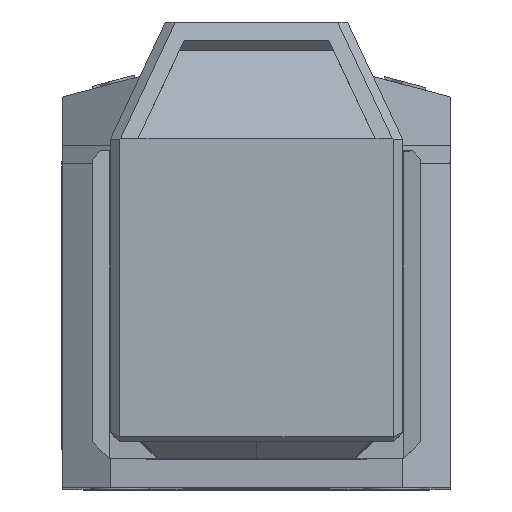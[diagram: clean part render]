
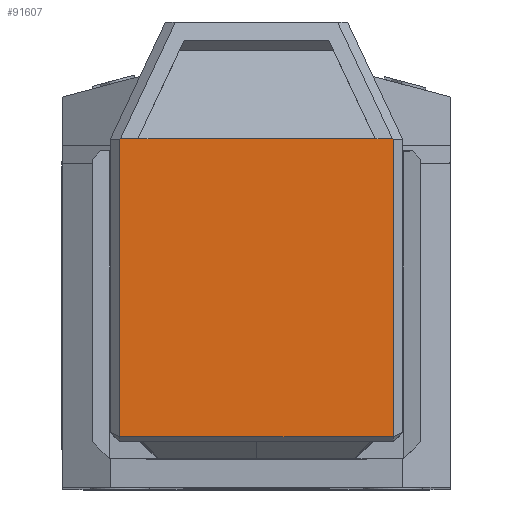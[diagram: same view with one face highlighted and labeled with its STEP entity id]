
A CAD part, top view. The second image highlights one B-rep face of the part: STEP entity #91607.
In plain terms, the highlighted planar face has unit normal (0, 0, 1).
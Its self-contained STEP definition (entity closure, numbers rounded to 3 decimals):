
#3517=DIRECTION('',(0.,-1.,0.));
#3518=VECTOR('',#3517,32.59);
#3519=CARTESIAN_POINT('',(15.,38.09,48.));
#3520=LINE('',#3519,#3518);
#15190=DIRECTION('',(0.,1.,0.));
#15191=VECTOR('',#15190,32.59);
#15192=CARTESIAN_POINT('',(-15.,5.5,
48.));
#15193=LINE('',#15192,#15191);
#15218=DIRECTION('',(-1.,0.,0.));
#15219=VECTOR('',#15218,30.);
#15220=CARTESIAN_POINT('',(15.,5.5,48.));
#15221=LINE('',#15220,#15219);
#17680=DIRECTION('',(1.,0.,0.));
#17681=VECTOR('',#17680,1.907);
#17682=CARTESIAN_POINT('',(-14.907,38.2,48.));
#17683=LINE('',#17682,#17681);
#17687=DIRECTION('',(1.,0.,0.));
#17688=VECTOR('',#17687,26.);
#17689=CARTESIAN_POINT('',(-13.,38.2,48.));
#17690=LINE('',#17689,#17688);
#17694=DIRECTION('',(1.,0.,0.));
#17695=VECTOR('',#17694,1.907);
#17696=CARTESIAN_POINT('',(13.,38.2,48.));
#17697=LINE('',#17696,#17695);
#17708=DIRECTION('',(-0.644,-0.765,0.));
#17709=VECTOR('',#17708,0.144);
#17710=CARTESIAN_POINT('',(-14.907,38.2,48.));
#17711=LINE('',#17710,#17709);
#17834=DIRECTION('',(-0.644,0.765,0.));
#17835=VECTOR('',#17834,0.144);
#17836=CARTESIAN_POINT('',(15.,38.09,48.));
#17837=LINE('',#17836,#17835);
#70955=CARTESIAN_POINT('',(-13.,38.2,48.));
#70956=CARTESIAN_POINT('',(13.,38.2,48.));
#70957=VERTEX_POINT('',#70955);
#70958=VERTEX_POINT('',#70956);
#71044=CARTESIAN_POINT('',(14.907,38.2,48.));
#71046=VERTEX_POINT('',#71044);
#71048=CARTESIAN_POINT('',(-14.907,38.2,48.));
#71050=VERTEX_POINT('',#71048);
#71071=CARTESIAN_POINT('',(15.,38.09,48.));
#71073=VERTEX_POINT('',#71071);
#71075=CARTESIAN_POINT('',(-15.,38.09,48.));
#71077=VERTEX_POINT('',#71075);
#71121=CARTESIAN_POINT('',(-15.,5.5,
48.));
#71123=VERTEX_POINT('',#71121);
#71127=CARTESIAN_POINT('',(15.,5.5,48.));
#71129=VERTEX_POINT('',#71127);
#91587=CARTESIAN_POINT('',(0.,5.,48.));
#91588=DIRECTION('',(0.,0.,-1.));
#91589=DIRECTION('',(0.,1.,0.));
#91590=AXIS2_PLACEMENT_3D('',#91587,#91588,#91589);
#91591=PLANE('',#91590);
#91592=ORIENTED_EDGE('',*,*,#76381,.T.);
#91593=ORIENTED_EDGE('',*,*,#88242,.T.);
#91594=ORIENTED_EDGE('',*,*,#88201,.T.);
#91596=ORIENTED_EDGE('',*,*,#91595,.F.);
#91598=ORIENTED_EDGE('',*,*,#91597,.T.);
#91600=ORIENTED_EDGE('',*,*,#91599,.T.);
#91602=ORIENTED_EDGE('',*,*,#91601,.T.);
#91604=ORIENTED_EDGE('',*,*,#91603,.F.);
#91605=EDGE_LOOP('',(#91592,#91593,#91594,#91596,#91598,#91600,#91602,#91604));
#91606=FACE_OUTER_BOUND('',#91605,.F.);
#76381=EDGE_CURVE('',#71073,#71129,#3520,.T.);
#88201=EDGE_CURVE('',#71123,#71077,#15193,.T.);
#88242=EDGE_CURVE('',#71129,#71123,#15221,.T.);
#91595=EDGE_CURVE('',#71050,#71077,#17711,.T.);
#91597=EDGE_CURVE('',#71050,#70957,#17683,.T.);
#91599=EDGE_CURVE('',#70957,#70958,#17690,.T.);
#91601=EDGE_CURVE('',#70958,#71046,#17697,.T.);
#91603=EDGE_CURVE('',#71073,#71046,#17837,.T.);
#91607=ADVANCED_FACE('',(#91606),#91591,.F.);
